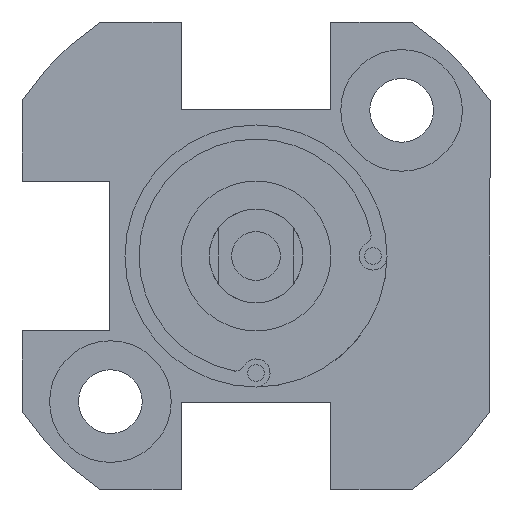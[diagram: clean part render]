
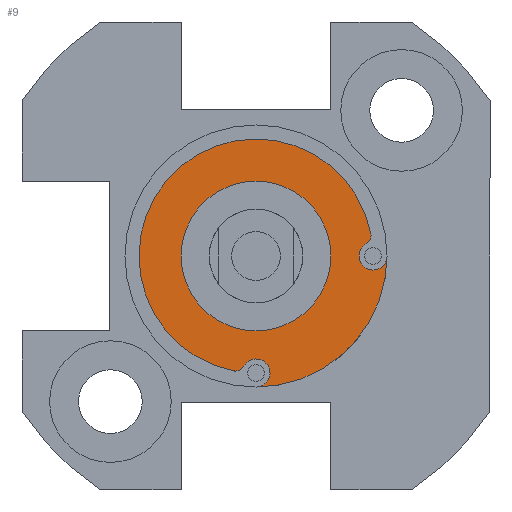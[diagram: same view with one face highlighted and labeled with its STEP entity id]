
A CAD part, front view. The second image highlights one B-rep face of the part: STEP entity #9.
In plain terms, the highlighted planar face has unit normal (0, -1, 0).
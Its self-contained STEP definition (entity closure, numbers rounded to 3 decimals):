
#9 = ADVANCED_FACE ( 'NONE', ( #1008, #2425 ), #3022, .T. ) ;
#67 = EDGE_CURVE ( 'NONE', #2922, #3038, #2267, .T. ) ;
#87 = DIRECTION ( 'NONE',  ( 0., -1., 0. ) ) ;
#121 = EDGE_LOOP ( 'NONE', ( #2751, #2238, #2402, #2564, #2430, #3051, #249, #2747 ) ) ;
#160 = EDGE_CURVE ( 'NONE', #3038, #2560, #1084, .T. ) ;
#218 = CIRCLE ( 'NONE', #2004, 0.5 ) ;
#226 = CIRCLE ( 'NONE', #2776, 6.25 ) ;
#246 = EDGE_CURVE ( 'NONE', #2357, #1975, #1884, .T. ) ;
#249 = ORIENTED_EDGE ( 'NONE', *, *, #246, .T. ) ;
#301 = CARTESIAN_POINT ( 'NONE',  ( -1.094, -35., -5.645 ) ) ;
#318 = CARTESIAN_POINT ( 'NONE',  ( 0., -35., 0. ) ) ;
#355 = AXIS2_PLACEMENT_3D ( 'NONE', #318, #87, #785 ) ;
#402 = AXIS2_PLACEMENT_3D ( 'NONE', #757, #2496, #2475 ) ;
#415 = DIRECTION ( 'NONE',  ( 0., 0., -1. ) ) ;
#429 = CARTESIAN_POINT ( 'NONE',  ( 0., -35., 0. ) ) ;
#507 = EDGE_LOOP ( 'NONE', ( #2789, #1806 ) ) ;
#560 = AXIS2_PLACEMENT_3D ( 'NONE', #429, #2373, #1161 ) ;
#678 = CIRCLE ( 'NONE', #402, 7. ) ;
#681 = CARTESIAN_POINT ( 'NONE',  ( 0., -35., -7. ) ) ;
#682 = EDGE_CURVE ( 'NONE', #1757, #2560, #226, .T. ) ;
#757 = CARTESIAN_POINT ( 'NONE',  ( 0., -35., 0. ) ) ;
#785 = DIRECTION ( 'NONE',  ( 0., 0., 1. ) ) ;
#792 = DIRECTION ( 'NONE',  ( 0., 0., -1. ) ) ;
#959 = EDGE_CURVE ( 'NONE', #1905, #1964, #1735, .T. ) ;
#1008 = FACE_OUTER_BOUND ( 'NONE', #121, .T. ) ;
#1081 = AXIS2_PLACEMENT_3D ( 'NONE', #1828, #1848, #2085 ) ;
#1084 = CIRCLE ( 'NONE', #1081, 0.5 ) ;
#1158 = CARTESIAN_POINT ( 'NONE',  ( 0., -35., -4. ) ) ;
#1161 = DIRECTION ( 'NONE',  ( 0., 0., 1. ) ) ;
#1228 = AXIS2_PLACEMENT_3D ( 'NONE', #2815, #1335, #1289 ) ;
#1265 = DIRECTION ( 'NONE',  ( 0., 0., 1. ) ) ;
#1289 = DIRECTION ( 'NONE',  ( 0., 0., 1. ) ) ;
#1335 = DIRECTION ( 'NONE',  ( 0., 1., 0. ) ) ;
#1347 = DIRECTION ( 'NONE',  ( 0., 0., 1. ) ) ;
#1359 = DIRECTION ( 'NONE',  ( 0., 1., 0. ) ) ;
#1392 = CARTESIAN_POINT ( 'NONE',  ( -1.094, -35., -5.645 ) ) ;
#1421 = CARTESIAN_POINT ( 'NONE',  ( -0.656, -35., -5.887 ) ) ;
#1427 = CARTESIAN_POINT ( 'NONE',  ( 5.887, -35., 0.656 ) ) ;
#1441 = VERTEX_POINT ( 'NONE', #3154 ) ;
#1501 = CIRCLE ( 'NONE', #2002, 0.5 ) ;
#1547 = AXIS2_PLACEMENT_3D ( 'NONE', #1721, #2699, #1265 ) ;
#1626 = CARTESIAN_POINT ( 'NONE',  ( 6.25, -35., 0. ) ) ;
#1688 = AXIS2_PLACEMENT_3D ( 'NONE', #2644, #2131, #2904 ) ;
#1721 = CARTESIAN_POINT ( 'NONE',  ( 0., -35., 0. ) ) ;
#1735 = CIRCLE ( 'NONE', #1547, 4. ) ;
#1757 = VERTEX_POINT ( 'NONE', #2571 ) ;
#1771 = VERTEX_POINT ( 'NONE', #2100 ) ;
#1796 = CARTESIAN_POINT ( 'NONE',  ( 0., -35., 0. ) ) ;
#1806 = ORIENTED_EDGE ( 'NONE', *, *, #959, .T. ) ;
#1828 = CARTESIAN_POINT ( 'NONE',  ( 5.645, -35., 1.094 ) ) ;
#1848 = DIRECTION ( 'NONE',  ( 0., -1., 0. ) ) ;
#1863 = AXIS2_PLACEMENT_3D ( 'NONE', #1626, #1359, #1347 ) ;
#1884 = CIRCLE ( 'NONE', #1688, 0.75 ) ;
#1905 = VERTEX_POINT ( 'NONE', #3108 ) ;
#1953 = EDGE_CURVE ( 'NONE', #1757, #1441, #1501, .T. ) ;
#1964 = VERTEX_POINT ( 'NONE', #1158 ) ;
#1975 = VERTEX_POINT ( 'NONE', #681 ) ;
#2002 = AXIS2_PLACEMENT_3D ( 'NONE', #1392, #2393, #415 ) ;
#2004 = AXIS2_PLACEMENT_3D ( 'NONE', #301, #2265, #792 ) ;
#2085 = DIRECTION ( 'NONE',  ( 0., 0., -1. ) ) ;
#2100 = CARTESIAN_POINT ( 'NONE',  ( 7., -35., 0. ) ) ;
#2131 = DIRECTION ( 'NONE',  ( 0., 1., 0. ) ) ;
#2153 = EDGE_CURVE ( 'NONE', #1771, #1975, #678, .T. ) ;
#2238 = ORIENTED_EDGE ( 'NONE', *, *, #67, .T. ) ;
#2261 = EDGE_CURVE ( 'NONE', #1441, #2357, #218, .T. ) ;
#2263 = EDGE_CURVE ( 'NONE', #1964, #1905, #2686, .T. ) ;
#2265 = DIRECTION ( 'NONE',  ( 0., -1., 0. ) ) ;
#2267 = CIRCLE ( 'NONE', #1228, 0.75 ) ;
#2338 = CARTESIAN_POINT ( 'NONE',  ( 6.25, -35., -0.75 ) ) ;
#2357 = VERTEX_POINT ( 'NONE', #1421 ) ;
#2369 = CARTESIAN_POINT ( 'NONE',  ( 6.136, -35., 1.189 ) ) ;
#2373 = DIRECTION ( 'NONE',  ( 0., 1., 0. ) ) ;
#2393 = DIRECTION ( 'NONE',  ( 0., -1., 0. ) ) ;
#2402 = ORIENTED_EDGE ( 'NONE', *, *, #160, .T. ) ;
#2425 = FACE_BOUND ( 'NONE', #507, .T. ) ;
#2430 = ORIENTED_EDGE ( 'NONE', *, *, #1953, .T. ) ;
#2443 = CIRCLE ( 'NONE', #1863, 0.75 ) ;
#2475 = DIRECTION ( 'NONE',  ( 0., 0., 1. ) ) ;
#2496 = DIRECTION ( 'NONE',  ( 0., 1., 0. ) ) ;
#2539 = DIRECTION ( 'NONE',  ( 0., 1., 0. ) ) ;
#2560 = VERTEX_POINT ( 'NONE', #2369 ) ;
#2564 = ORIENTED_EDGE ( 'NONE', *, *, #682, .F. ) ;
#2571 = CARTESIAN_POINT ( 'NONE',  ( -1.189, -35., -6.136 ) ) ;
#2598 = DIRECTION ( 'NONE',  ( 0., 0., 1. ) ) ;
#2644 = CARTESIAN_POINT ( 'NONE',  ( 0., -35., -6.25 ) ) ;
#2686 = CIRCLE ( 'NONE', #560, 4. ) ;
#2699 = DIRECTION ( 'NONE',  ( 0., 1., 0. ) ) ;
#2747 = ORIENTED_EDGE ( 'NONE', *, *, #2153, .F. ) ;
#2751 = ORIENTED_EDGE ( 'NONE', *, *, #2903, .T. ) ;
#2776 = AXIS2_PLACEMENT_3D ( 'NONE', #1796, #2539, #2598 ) ;
#2789 = ORIENTED_EDGE ( 'NONE', *, *, #2263, .T. ) ;
#2815 = CARTESIAN_POINT ( 'NONE',  ( 6.25, -35., 0. ) ) ;
#2903 = EDGE_CURVE ( 'NONE', #1771, #2922, #2443, .T. ) ;
#2904 = DIRECTION ( 'NONE',  ( 0., 0., 1. ) ) ;
#2922 = VERTEX_POINT ( 'NONE', #2338 ) ;
#3022 = PLANE ( 'NONE',  #355 ) ;
#3038 = VERTEX_POINT ( 'NONE', #1427 ) ;
#3051 = ORIENTED_EDGE ( 'NONE', *, *, #2261, .T. ) ;
#3108 = CARTESIAN_POINT ( 'NONE',  ( 0., -35., 4. ) ) ;
#3154 = CARTESIAN_POINT ( 'NONE',  ( -1.094, -35., -6.145 ) ) ;
